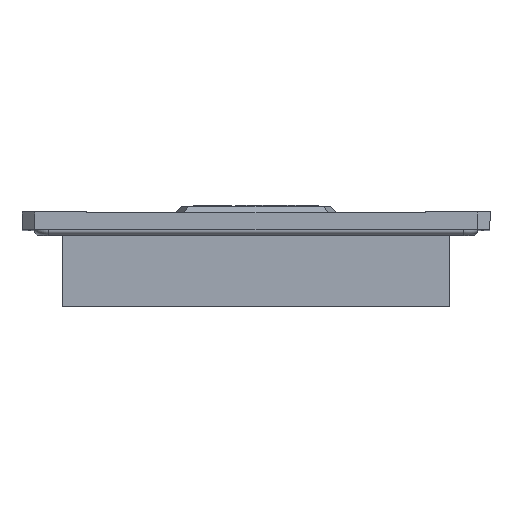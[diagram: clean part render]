
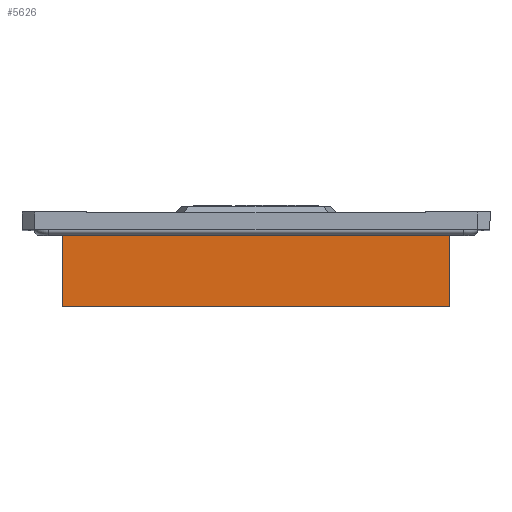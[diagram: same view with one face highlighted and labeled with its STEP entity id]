
A CAD part, top view. The second image highlights one B-rep face of the part: STEP entity #5626.
In plain terms, the highlighted planar face has unit normal (0, 0, 1).
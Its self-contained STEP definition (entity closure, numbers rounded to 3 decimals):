
#5606 = ORIENTED_EDGE ( 'NONE', *, *, #5607, .F. ) ;
#5607 = EDGE_CURVE ( 'NONE', #5632, #5631, #22782, .T. ) ;
#5608 = ORIENTED_EDGE ( 'NONE', *, *, #5609, .F. ) ;
#5609 = EDGE_CURVE ( 'NONE', #6976, #5632, #22778, .T. ) ;
#5626 = ADVANCED_FACE ( 'NONE', ( #22814 ), #22813, .T. ) ;
#5627 = EDGE_LOOP ( 'NONE', ( #5628, #5629, #5606, #5608 ) ) ;
#5628 = ORIENTED_EDGE ( 'NONE', *, *, #6975, .T. ) ;
#5629 = ORIENTED_EDGE ( 'NONE', *, *, #5630, .T. ) ;
#5630 = EDGE_CURVE ( 'NONE', #6978, #5631, #22808, .T. ) ;
#5631 = VERTEX_POINT ( 'NONE', #22804 ) ;
#5632 = VERTEX_POINT ( 'NONE', #22803 ) ;
#6975 = EDGE_CURVE ( 'NONE', #6976, #6978, #25223, .T. ) ;
#6976 = VERTEX_POINT ( 'NONE', #25219 ) ;
#6978 = VERTEX_POINT ( 'NONE', #25218 ) ;
#22775 = DIRECTION ( 'NONE',  ( 0., -1., 0. ) ) ;
#22776 = VECTOR ( 'NONE', #22775, 1000. ) ;
#22777 = CARTESIAN_POINT ( 'NONE',  ( 45., 168.242, 45. ) ) ;
#22778 = LINE ( 'NONE', #22777, #22776 ) ;
#22779 = DIRECTION ( 'NONE',  ( -1., 0., 0. ) ) ;
#22780 = VECTOR ( 'NONE', #22779, 1000. ) ;
#22781 = CARTESIAN_POINT ( 'NONE',  ( -45., 0., 45. ) ) ;
#22782 = LINE ( 'NONE', #22781, #22780 ) ;
#22803 = CARTESIAN_POINT ( 'NONE',  ( 45., 0., 45. ) ) ;
#22804 = CARTESIAN_POINT ( 'NONE',  ( -45., 0., 45. ) ) ;
#22805 = DIRECTION ( 'NONE',  ( 0., -1., 0. ) ) ;
#22806 = VECTOR ( 'NONE', #22805, 1000. ) ;
#22807 = CARTESIAN_POINT ( 'NONE',  ( -45., 168.242, 45. ) ) ;
#22808 = LINE ( 'NONE', #22807, #22806 ) ;
#22809 = DIRECTION ( 'NONE',  ( 1., 0., 0. ) ) ;
#22810 = DIRECTION ( 'NONE',  ( 0., 0., 1. ) ) ;
#22811 = CARTESIAN_POINT ( 'NONE',  ( -45., 168.242, 45. ) ) ;
#22812 = AXIS2_PLACEMENT_3D ( 'NONE', #22811, #22810, #22809 ) ;
#22813 = PLANE ( 'NONE',  #22812 ) ;
#22814 = FACE_OUTER_BOUND ( 'NONE', #5627, .T. ) ;
#25218 = CARTESIAN_POINT ( 'NONE',  ( -45., 17.75, 45. ) ) ;
#25219 = CARTESIAN_POINT ( 'NONE',  ( 45., 17.75, 45. ) ) ;
#25220 = DIRECTION ( 'NONE',  ( -1., 0., 0. ) ) ;
#25221 = VECTOR ( 'NONE', #25220, 1000. ) ;
#25222 = CARTESIAN_POINT ( 'NONE',  ( -45., 17.75, 45. ) ) ;
#25223 = LINE ( 'NONE', #25222, #25221 ) ;
